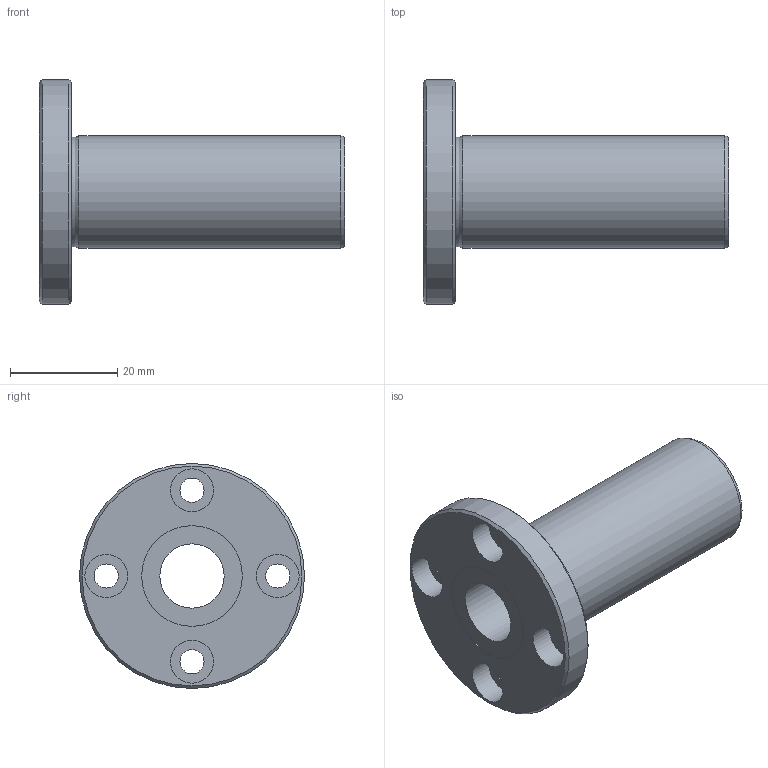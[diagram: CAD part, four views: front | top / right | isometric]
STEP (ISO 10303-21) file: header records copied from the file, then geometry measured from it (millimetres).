
FILE_DESCRIPTION((''),'2;1');
FILE_NAME('D:\製品 (図面)\カタログ用3D\リニアベアリング関連\STEP形式\LFD\LFD12.stp','2010-06-03T09:19:44',('Tsuchiya'),(''),'Autodesk Inventor 10','Autodesk Inventor 10','');
FILE_SCHEMA(('AUTOMOTIVE_DESIGN { 1 0 10303 214 1 1 1 1 }'));
Length unit declared in the file: millimetre
Products named in the file (1): LFD12
Bounding box: 57 x 42 x 42 mm (x, y, z)
Volume: 18464.1 mm3; surface area: 9176.3 mm2
Topology: 1 solids, 1 shells, 26 faces, 47 edges, 30 vertices
Faces by surface type: cylinder 13, plane 9, cone 2, torus 1, bspline 1
Full cylindrical faces by diameter (mm): 4.5 x4, 8 x4, 12 x1, 18.8 x2, 21 x1, 42 x1
Entity records: 665 total; most frequent: CARTESIAN_POINT 149, DIRECTION 112, ORIENTED_EDGE 60, EDGE_LOOP 60, AXIS2_PLACEMENT_3D 56, FACE_BOUND 34, VERTEX_POINT 30, CIRCLE 30
